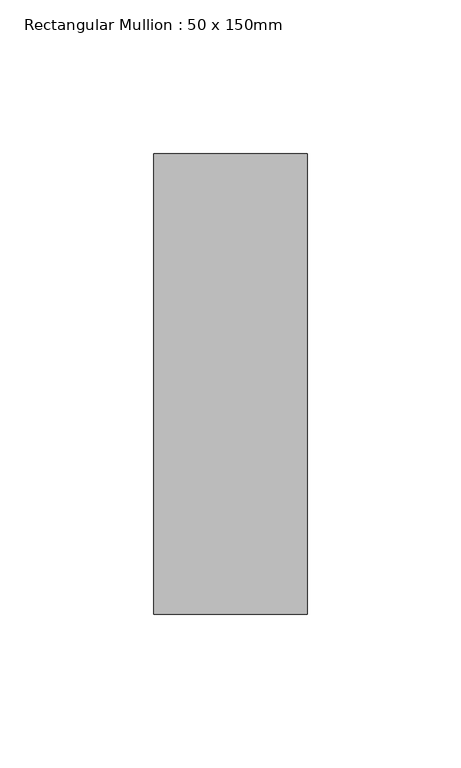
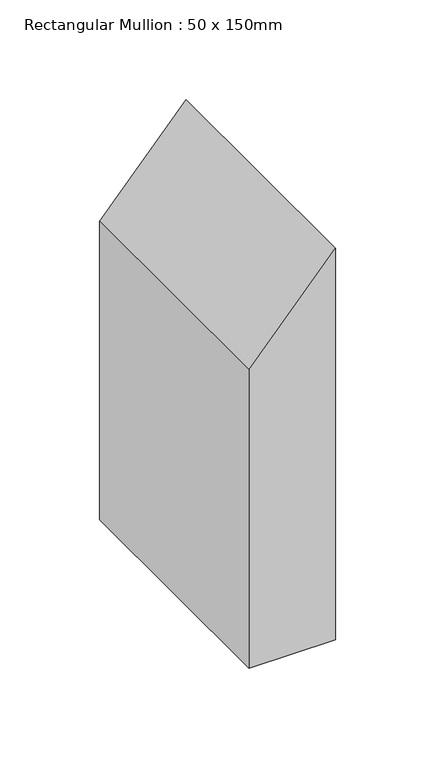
"""IFC4 building model written with IfcOpenShell, lengths in millimetres: member geometry, Rectangular Mullion : 50 x 150mm."""

from ifc_helpers import new_model, si_unit, frame, origin, place, context, project, spatial, polyline, outline, extrude, source, transform, mapped, element, save


def rectangular_mullion_50_x_150mm_9c6eec2b(model_context):
    return source(origin(), model_context, "Body", "SweptSolid", [
        extrude(outline(polyline([(-47.3292929, 25.0), (-104.3576144, -25.0), (-287.0221596, -25.0), (-287.0221596, 25.0), (-47.3292929, 25.0)])), frame((0.0, -75.0, 0.0), z_axis=(0.0, 1.0, 0.0), x_axis=(0.0, 0.0, 1.0)), (0.0, 0.0, 1.0), 150.0),
    ])


if __name__ == "__main__":
    model = new_model("IFC4")
    model_context = context("Model", 3, world=origin())
    ifc_project = project(units=[si_unit("LENGTHUNIT", "METRE", prefix="MILLI")], contexts=[model_context])
    site = spatial("IfcSite", under=ifc_project)
    building = spatial("IfcBuilding", under=site)
    placement = place(None, origin())
    rectangular_mullion_50_x_150mm_shape = rectangular_mullion_50_x_150mm_9c6eec2b(model_context)
    element("IfcMember", 1, ObjectType="Rectangular Mullion : 50 x 150mm", at=placement, inside=building, context=model_context, shape_type="MappedRepresentation", body=[
        mapped(rectangular_mullion_50_x_150mm_shape, transform((0.0, 0.0, 0.0), x_axis=(1.0, 0.0, 0.0), y_axis=(0.0, 1.0, 0.0), z_axis=(0.0, 0.0, 1.0))),
    ])
    save(model, "model.ifc")
